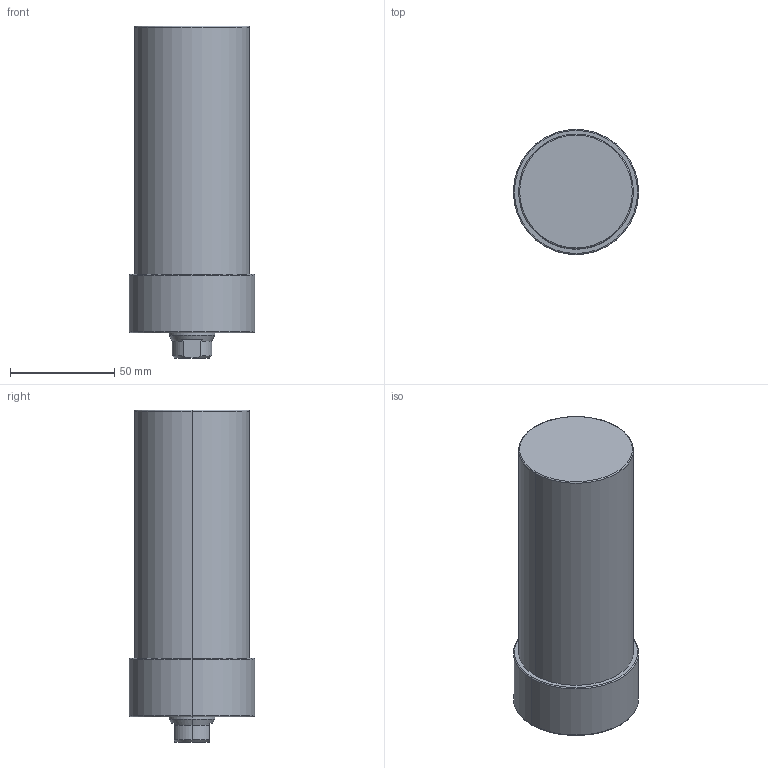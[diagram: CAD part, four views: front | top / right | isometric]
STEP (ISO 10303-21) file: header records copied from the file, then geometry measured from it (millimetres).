
FILE_DESCRIPTION (( 'STEP AP203' ), '1' );
FILE_NAME ('CLLU055-CA-090.STEP', '2017-05-15T08:09:32', ( '' ), ( '' ), 'SwSTEP 2.0', 'SolidWorks 2015', '' );
FILE_SCHEMA (( 'CONFIG_CONTROL_DESIGN' ));
Length unit declared in the file: millimetre
Products named in the file (1): CLLU055-CA-090
Bounding box: 60 x 60 x 159 mm (x, y, z)
Volume: 362224.7 mm3; surface area: 33884.4 mm2
Topology: 1 solids, 1 shells, 64 faces, 143 edges, 80 vertices
Faces by surface type: cone 25, cylinder 23, plane 10, torus 6
Entity records: 1805 total; most frequent: DIRECTION 330, CARTESIAN_POINT 318, ORIENTED_EDGE 266, AXIS2_PLACEMENT_3D 140, EDGE_CURVE 133, VERTEX_POINT 80, CIRCLE 75, EDGE_LOOP 73
